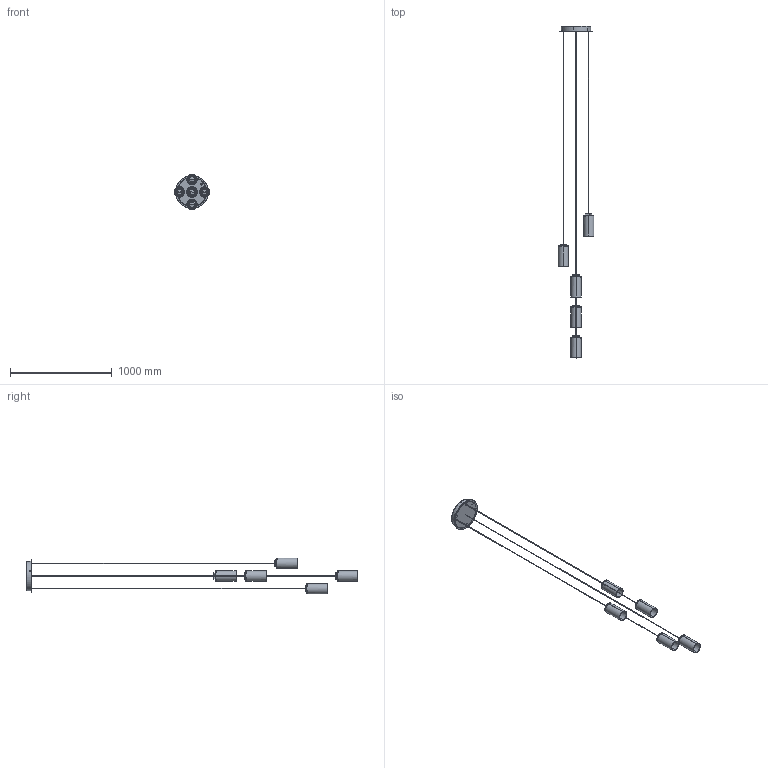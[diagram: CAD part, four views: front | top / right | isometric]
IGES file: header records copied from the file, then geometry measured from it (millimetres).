
Start section: SolidWorks IGES file using NURBS representation for surfaces
Global section: file name: C:\Users\aitor.torredeflot\Desktop\Cascada 12\3D WEB\CAscada 5\cascada 5 - aleatorio.IGS; native system: SolidWorks 2016; preprocessor: SolidWorks 2016; author: aitor.torredeflot; date: 170712.153634; units: millimetre
Bounding box: 351 x 3268.1 x 351 mm (x, y, z)
Surface area: 1333445.9 mm2 (no closed solid volume)
Topology: 0 solids, 0 shells, 2261 faces, 17828 edges, 17816 vertices
Faces by surface type: bspline 2261
